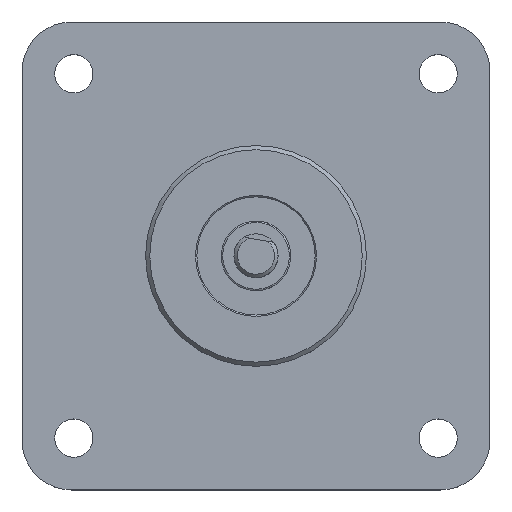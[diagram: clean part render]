
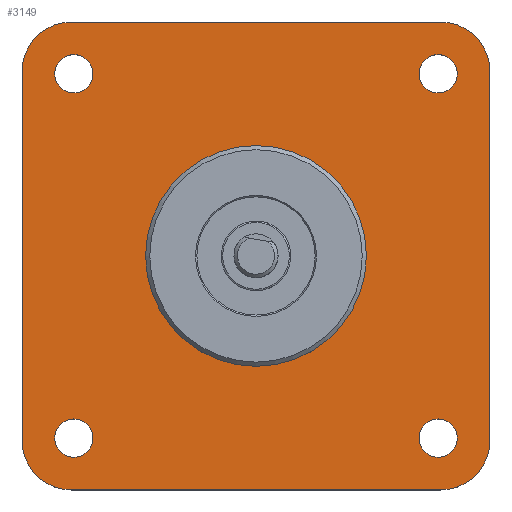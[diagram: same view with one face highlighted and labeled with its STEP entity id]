
A CAD part, top view. The second image highlights one B-rep face of the part: STEP entity #3149.
In plain terms, the highlighted planar face has unit normal (0, 0, 1).
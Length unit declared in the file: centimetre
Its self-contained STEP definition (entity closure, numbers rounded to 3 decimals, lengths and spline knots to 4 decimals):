
#163=VECTOR('',#5076,1.);
#164=VECTOR('',#5079,1.);
#165=VECTOR('',#5082,1.);
#166=VECTOR('',#5085,1.);
#276=LINE('',#3998,#163);
#277=LINE('',#4003,#164);
#278=LINE('',#4007,#165);
#279=LINE('',#4011,#166);
#501=PLANE('',#3442);
#622=VERTEX_POINT('',#3989);
#623=VERTEX_POINT('',#3991);
#624=VERTEX_POINT('',#3993);
#625=VERTEX_POINT('',#3995);
#626=VERTEX_POINT('',#3997);
#627=VERTEX_POINT('',#3999);
#628=VERTEX_POINT('',#4000);
#629=VERTEX_POINT('',#4002);
#630=VERTEX_POINT('',#4004);
#631=VERTEX_POINT('',#4006);
#632=VERTEX_POINT('',#4008);
#633=VERTEX_POINT('',#4010);
#634=VERTEX_POINT('',#4012);
#927=CIRCLE('',#3443,1.5875);
#928=CIRCLE('',#3444,0.275);
#929=CIRCLE('',#3445,0.275);
#930=CIRCLE('',#3446,0.275);
#931=CIRCLE('',#3447,0.275);
#932=CIRCLE('',#3448,0.71);
#933=CIRCLE('',#3449,0.71);
#934=CIRCLE('',#3450,0.71);
#935=CIRCLE('',#3451,0.71);
#1172=EDGE_CURVE('',#622,#622,#927,.T.);
#1173=EDGE_CURVE('',#623,#623,#928,.T.);
#1174=EDGE_CURVE('',#624,#624,#929,.T.);
#1175=EDGE_CURVE('',#625,#625,#930,.T.);
#1176=EDGE_CURVE('',#626,#626,#931,.T.);
#1177=EDGE_CURVE('',#627,#628,#276,.T.);
#1178=EDGE_CURVE('',#628,#629,#932,.T.);
#1179=EDGE_CURVE('',#629,#630,#277,.T.);
#1180=EDGE_CURVE('',#630,#631,#933,.T.);
#1181=EDGE_CURVE('',#631,#632,#278,.T.);
#1182=EDGE_CURVE('',#632,#633,#934,.T.);
#1183=EDGE_CURVE('',#633,#634,#279,.T.);
#1184=EDGE_CURVE('',#634,#627,#935,.T.);
#1557=ORIENTED_EDGE('',*,*,#1172,.T.);
#1558=ORIENTED_EDGE('',*,*,#1173,.F.);
#1559=ORIENTED_EDGE('',*,*,#1174,.F.);
#1560=ORIENTED_EDGE('',*,*,#1175,.F.);
#1561=ORIENTED_EDGE('',*,*,#1176,.F.);
#1562=ORIENTED_EDGE('',*,*,#1177,.T.);
#1563=ORIENTED_EDGE('',*,*,#1178,.T.);
#1564=ORIENTED_EDGE('',*,*,#1179,.T.);
#1565=ORIENTED_EDGE('',*,*,#1180,.T.);
#1566=ORIENTED_EDGE('',*,*,#1181,.T.);
#1567=ORIENTED_EDGE('',*,*,#1182,.T.);
#1568=ORIENTED_EDGE('',*,*,#1183,.T.);
#1569=ORIENTED_EDGE('',*,*,#1184,.T.);
#2307=EDGE_LOOP('',(#1557));
#2308=EDGE_LOOP('',(#1558));
#2309=EDGE_LOOP('',(#1559));
#2310=EDGE_LOOP('',(#1560));
#2311=EDGE_LOOP('',(#1561));
#2312=EDGE_LOOP('',(#1562,#1563,#1564,#1565,#1566,#1567,#1568,#1569));
#2733=FACE_BOUND('',#2307,.T.);
#2734=FACE_BOUND('',#2308,.T.);
#2735=FACE_BOUND('',#2309,.T.);
#2736=FACE_BOUND('',#2310,.T.);
#2737=FACE_BOUND('',#2311,.T.);
#2738=FACE_BOUND('',#2312,.T.);
#3149=ADVANCED_FACE('',(#2733,#2734,#2735,#2736,#2737,#2738),#501,.T.);
#3442=AXIS2_PLACEMENT_3D('',#3987,#5065,$);
#3443=AXIS2_PLACEMENT_3D('',#3988,#5066,#5067);
#3444=AXIS2_PLACEMENT_3D('',#3990,#5068,#5069);
#3445=AXIS2_PLACEMENT_3D('',#3992,#5070,#5071);
#3446=AXIS2_PLACEMENT_3D('',#3994,#5072,#5073);
#3447=AXIS2_PLACEMENT_3D('',#3996,#5074,#5075);
#3448=AXIS2_PLACEMENT_3D('',#4001,#5077,#5078);
#3449=AXIS2_PLACEMENT_3D('',#4005,#5080,#5081);
#3450=AXIS2_PLACEMENT_3D('',#4009,#5083,#5084);
#3451=AXIS2_PLACEMENT_3D('',#4013,#5086,#5087);
#3987=CARTESIAN_POINT('',(0.,0.,
0.));
#3988=CARTESIAN_POINT('',(0.,0.,0.));
#3989=CARTESIAN_POINT('',(1.5875,0.,0.));
#3990=CARTESIAN_POINT('',(2.62,-2.62,0.));
#3991=CARTESIAN_POINT('',(2.895,-2.62,0.));
#3992=CARTESIAN_POINT('',(2.62,2.62,0.));
#3993=CARTESIAN_POINT('',(2.895,2.62,0.));
#3994=CARTESIAN_POINT('',(-2.62,2.62,0.));
#3995=CARTESIAN_POINT('',(-2.345,2.62,0.));
#3996=CARTESIAN_POINT('',(-2.62,-2.62,0.));
#3997=CARTESIAN_POINT('',(-2.345,-2.62,0.));
#3998=CARTESIAN_POINT('',(-3.3655,2.6555,0.));
#3999=CARTESIAN_POINT('',(-3.3655,2.6555,0.));
#4000=CARTESIAN_POINT('',(-3.3655,-2.6555,0.));
#4001=CARTESIAN_POINT('',(-2.6555,-2.6555,0.));
#4002=CARTESIAN_POINT('',(-2.6555,-3.3655,0.));
#4003=CARTESIAN_POINT('',(-2.6555,-3.3655,0.));
#4004=CARTESIAN_POINT('',(2.6555,-3.3655,0.));
#4005=CARTESIAN_POINT('',(2.6555,-2.6555,0.));
#4006=CARTESIAN_POINT('',(3.3655,-2.6555,0.));
#4007=CARTESIAN_POINT('',(3.3655,-2.6555,0.));
#4008=CARTESIAN_POINT('',(3.3655,2.6555,0.));
#4009=CARTESIAN_POINT('',(2.6555,2.6555,0.));
#4010=CARTESIAN_POINT('',(2.6555,3.3655,0.));
#4011=CARTESIAN_POINT('',(2.6555,3.3655,0.));
#4012=CARTESIAN_POINT('',(-2.6555,3.3655,0.));
#4013=CARTESIAN_POINT('',(-2.6555,2.6555,0.));
#5065=DIRECTION('',(0.,0.,1.));
#5066=DIRECTION('',(0.,0.,-1.));
#5067=DIRECTION('',(1.588,0.,0.));
#5068=DIRECTION('',(0.,0.,1.));
#5069=DIRECTION('',(0.275,0.,0.));
#5070=DIRECTION('',(0.,0.,1.));
#5071=DIRECTION('',(0.275,0.,0.));
#5072=DIRECTION('',(0.,0.,1.));
#5073=DIRECTION('',(0.275,0.,0.));
#5074=DIRECTION('',(0.,0.,1.));
#5075=DIRECTION('',(0.275,0.,0.));
#5076=DIRECTION('',(0.,-1.,0.));
#5077=DIRECTION('',(0.,0.,1.));
#5078=DIRECTION('',(0.71,0.,0.));
#5079=DIRECTION('',(1.,0.,0.));
#5080=DIRECTION('',(0.,0.,1.));
#5081=DIRECTION('',(0.71,0.,0.));
#5082=DIRECTION('',(0.,1.,0.));
#5083=DIRECTION('',(0.,0.,1.));
#5084=DIRECTION('',(0.71,0.,0.));
#5085=DIRECTION('',(-1.,0.,0.));
#5086=DIRECTION('',(0.,0.,1.));
#5087=DIRECTION('',(0.71,0.,0.));
